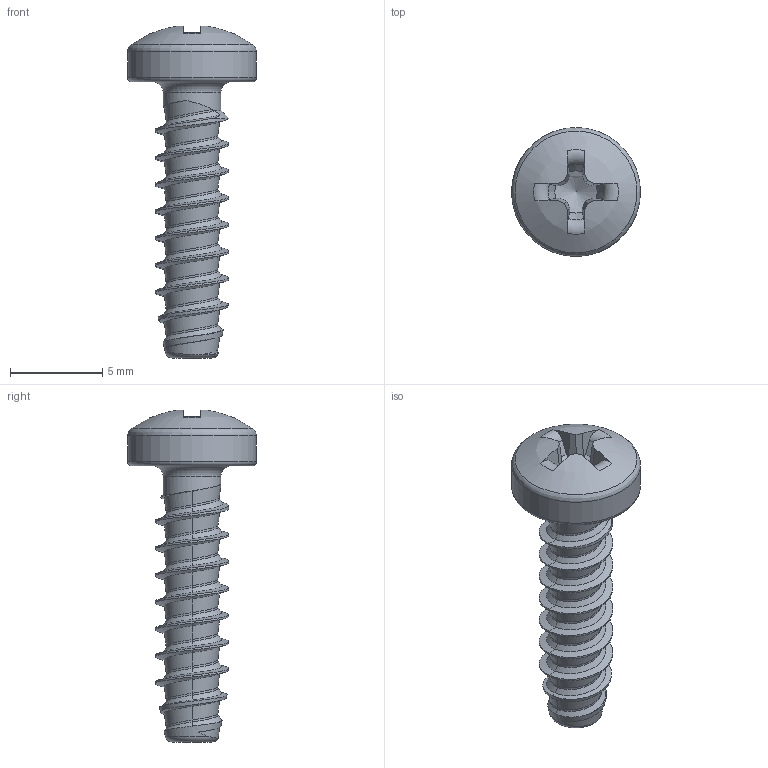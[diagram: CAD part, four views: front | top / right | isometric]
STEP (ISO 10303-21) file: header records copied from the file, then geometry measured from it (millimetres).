
FILE_DESCRIPTION(/* description */ (''),/* implementation_level */ '2;1');
FILE_NAME(/* name */ 'KN6032-STSplus-40x15-H2.step',/* time_stamp */ '2017-10-10T15:11:15+02:00',/* author */ (''),/* organization */ (''),/* preprocessor_version */ 'ST-DEVELOPER v16',/* originating_system */ 'SIEMENS PLM Software NX 10.0',/* authorisation */ '');
FILE_SCHEMA (('AUTOMOTIVE_DESIGN { 1 0 10303 214 3 1 1 1 }'));
Length unit declared in the file: millimetre
Products named in the file (1): KN6032-STSplus-40x15-H2
Bounding box: 7 x 7 x 18.03 mm (x, y, z)
Volume: 202.8 mm3; surface area: 337.5 mm2
Topology: 1 solids, 1 shells, 86 faces, 214 edges, 130 vertices
Faces by surface type: bspline 49, plane 18, torus 8, cone 7, cylinder 3, sphere 1
Full cylindrical faces by diameter (mm): 3.13 x1, 7 x1
Entity records: 5122 total; most frequent: CARTESIAN_POINT 3462, ORIENTED_EDGE 400, DIRECTION 211, EDGE_CURVE 200, VERTEX_POINT 125, B_SPLINE_CURVE_WITH_KNOTS 104, EDGE_LOOP 94, ADVANCED_FACE 86
